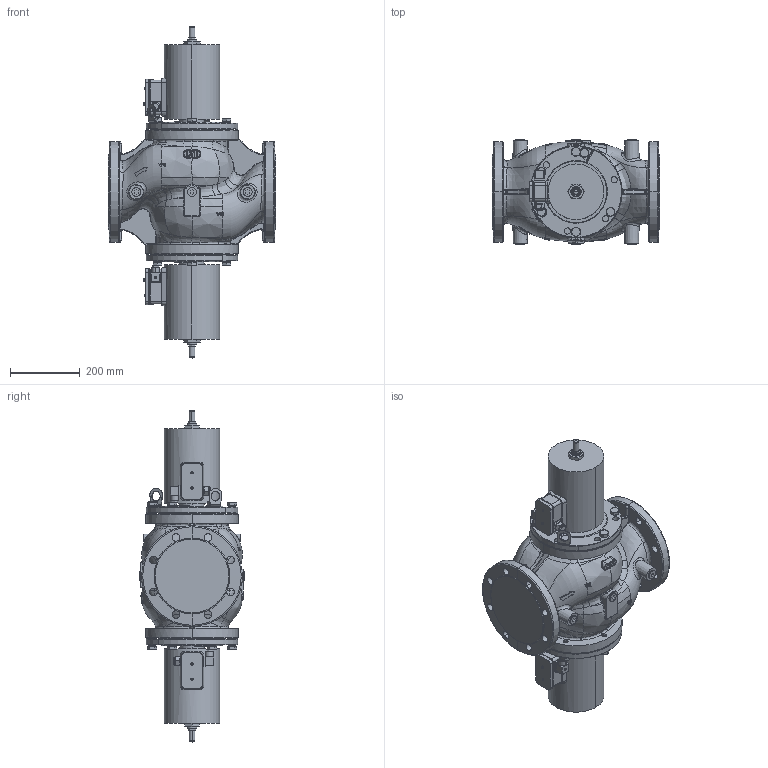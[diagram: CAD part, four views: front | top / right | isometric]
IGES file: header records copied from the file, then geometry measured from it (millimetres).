
Global section: file name: No Iges File Name specified; native system: AutoDesk Inventor R12.0; preprocessor: AutoDesk Inventor Iges Exporter R12.0; date: 20100908.124854; units: millimetre
Bounding box: 480 x 302 x 953.81 mm (x, y, z)
Volume: 40261167.1 mm3; surface area: 1399792.8 mm2
Topology: 1 solids, 1 shells, 2519 faces, 6390 edges, 4061 vertices
Faces by surface type: plane 980, bspline 784, cylinder 264, cone 213, revolution 168, torus 94, sphere 16
